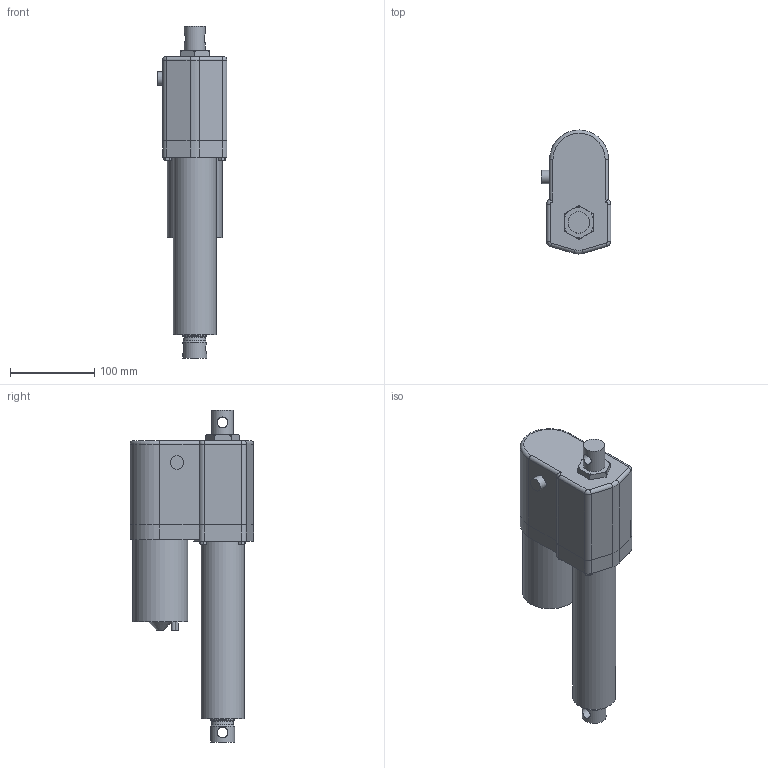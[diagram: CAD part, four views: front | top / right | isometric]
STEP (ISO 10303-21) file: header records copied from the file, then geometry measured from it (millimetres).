
FILE_DESCRIPTION (( 'STEP AP214' ), '1' );
FILE_NAME ('D12-05A5-06M0NPO-tollo.step', '2020-04-13T14:54:08', ( '' ), ( '' ), 'SwSTEP 2.0', 'SolidWorks 2010', '' );
FILE_SCHEMA (( 'AUTOMOTIVE_DESIGN' ));
Length unit declared in the file: millimetre
Products named in the file (6): Electrak-LA10-Motor-D12-05A5-06M0NPO-tollo_Electrak-LA10-Motor-D12-05A5-06M0NPO-tollo; Electrak-LA10-Rear-D12-05A5-06M0NPO-tollo_Electrak-LA10-Rear-D12-05A5-06M0NPO-tollo; Electrak-LA10-Tube-D12-05A5-06M0NPO-tollo_Electrak-LA10-Tube-D12-05A5-06M0NPO-tollo; Electrak-LA10-Rod-D12-05A5-06M0NPO-tollo_Electrak-LA10-Rod-D12-05A5-06M0NPO-tollo; Screw-M6S-M5-D12-05A5-06M0NPO-tollo_Screw-M6S-M5-D12-05A5-06M0NPO-tollo; D12-05A5-06M0NPO-tollo
Assembly tree (8 placements, depth 2):
  D12-05A5-06M0NPO-tollo
    Screw-M6S-M5-D12-05A5-06M0NPO-tollo_Screw-M6S-M5-D12-05A5-06M0NPO-tollo  x4
    Electrak-LA10-Tube-D12-05A5-06M0NPO-tollo_Electrak-LA10-Tube-D12-05A5-06M0NPO-tollo
    Electrak-LA10-Rod-D12-05A5-06M0NPO-tollo_Electrak-LA10-Rod-D12-05A5-06M0NPO-tollo
    Electrak-LA10-Motor-D12-05A5-06M0NPO-tollo_Electrak-LA10-Motor-D12-05A5-06M0NPO-tollo
    Electrak-LA10-Rear-D12-05A5-06M0NPO-tollo_Electrak-LA10-Rear-D12-05A5-06M0NPO-tollo
Bounding box: 82.72 x 147.19 x 394.2 mm (x, y, z)
Volume: 1931440 mm3; surface area: 196099.9 mm2
Topology: 8 solids, 8 shells, 193 faces, 439 edges, 283 vertices
Faces by surface type: plane 82, cylinder 77, cone 22, torus 12
Full cylindrical faces by diameter (mm): 4 x2, 4.126 x4, 4.8 x10, 5 x4, 7.878 x4, 12.8 x2, 16 x1, 25.4 x1, 28.6 x4, 51 x1, 65.3 x1
Entity records: 4139 total; most frequent: CARTESIAN_POINT 1139, DIRECTION 600, ORIENTED_EDGE 476, AXIS2_PLACEMENT_3D 251, EDGE_CURVE 238, EDGE_LOOP 188, VERTEX_POINT 174, FACE_OUTER_BOUND 149
